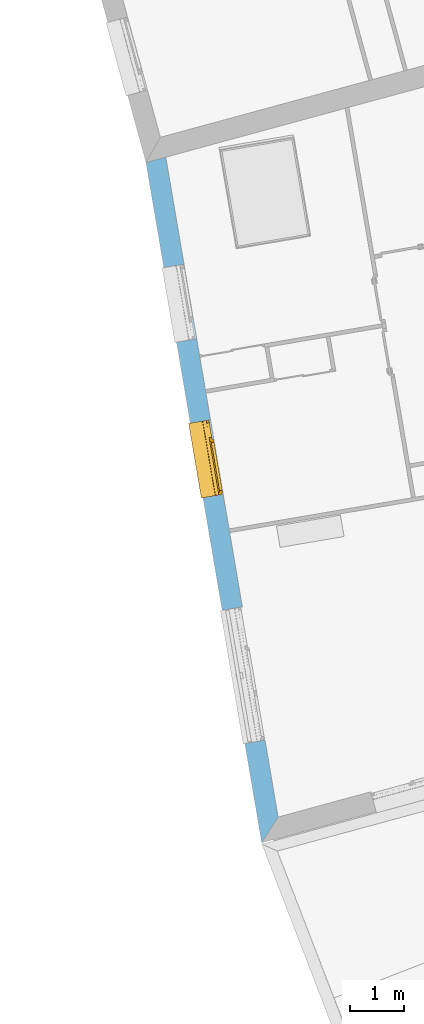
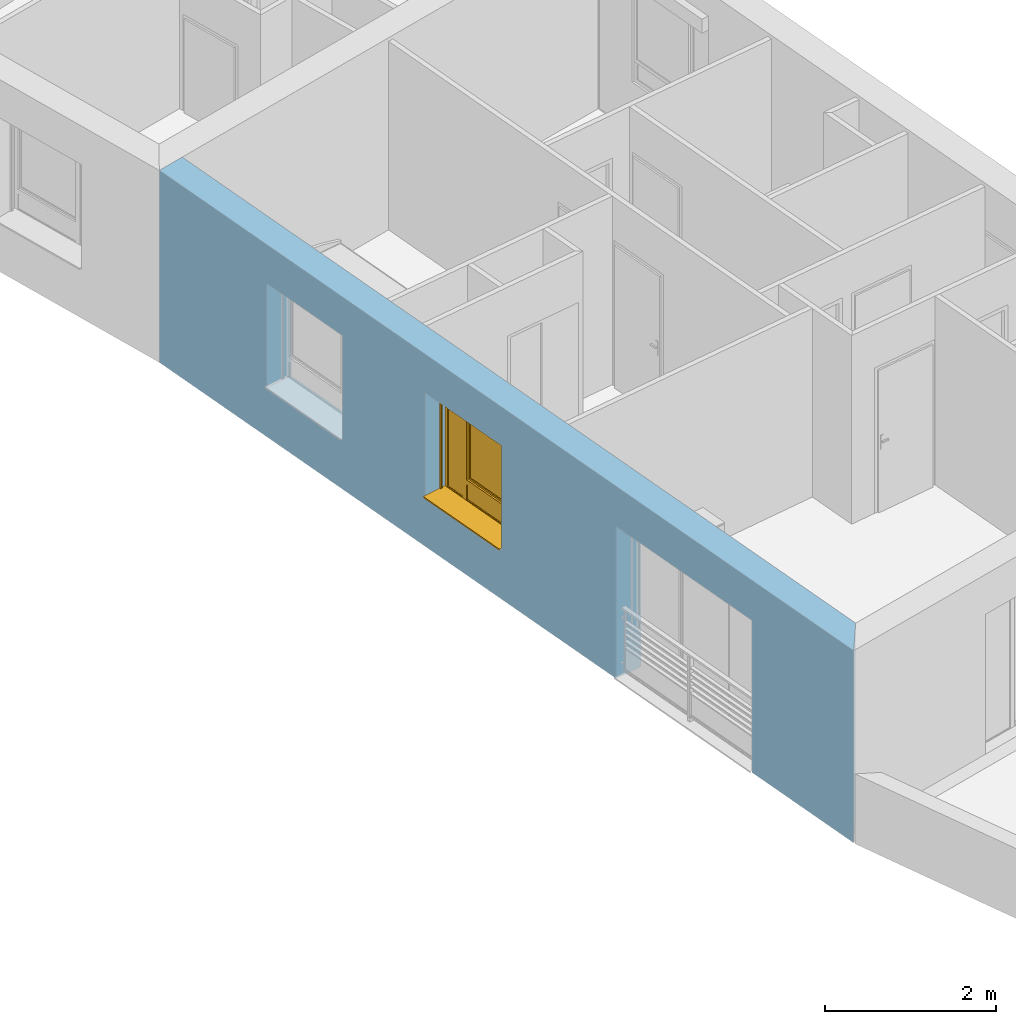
# One storey, part 73 of 121: 1 window, 3 openings, plus 1 element that does not belong to this part.
"""IFC2X3 building model written with IfcOpenShell, lengths in metres."""

from ifc_helpers import new_model, entity, si_unit, converted_unit, derived_unit, money_unit, direction, frame, origin_with_axes, place, context, subcontext, project, spatial, polyline, outline, extrude, open_shell, faceted_brep, surface_model, source, transform, mapped, material, layer, layer_set, layer_usage, type_object, element, fill, save


model = new_model("IFC2X3")

# Units and contexts
model_context = context("Model", 3, precision=1e-05, world=origin_with_axes(), true_north=direction((0.0, 1.0)))
body_context = subcontext(model_context, "Body", "Model", "MODEL_VIEW")
ifc_project = project(units=[si_unit("LENGTHUNIT", "METRE"), si_unit("AREAUNIT", "SQUARE_METRE"), si_unit("VOLUMEUNIT", "CUBIC_METRE"), converted_unit("PLANEANGLEUNIT", "DEGREE", entity("IfcPlaneAngleMeasure", 0.0174532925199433), si_unit("PLANEANGLEUNIT", "RADIAN"), dimensions=[0, 0, 0, 0, 0, 0, 0]), money_unit("CHF"), converted_unit("TIMEUNIT", "Year", entity("IfcTimeMeasure", 31557600.0), si_unit("TIMEUNIT", "SECOND"), dimensions=[0, 0, 1, 0, 0, 0, 0]), si_unit("MASSUNIT", "GRAM", prefix="KILO"), si_unit("THERMODYNAMICTEMPERATUREUNIT", "DEGREE_CELSIUS"), si_unit("LUMINOUSINTENSITYUNIT", "LUMEN"), si_unit("ENERGYUNIT", "JOULE", prefix="MEGA"), derived_unit("THERMALCONDUCTANCEUNIT", [(si_unit("POWERUNIT", "WATT"), 1), (si_unit("LENGTHUNIT", "METRE"), -1), (si_unit("THERMODYNAMICTEMPERATUREUNIT", "KELVIN"), -1)]), derived_unit("SPECIFICHEATCAPACITYUNIT", [(si_unit("ENERGYUNIT", "JOULE"), 1), (si_unit("MASSUNIT", "GRAM", prefix="KILO"), -1), (si_unit("THERMODYNAMICTEMPERATUREUNIT", "KELVIN"), -1)]), derived_unit("MASSDENSITYUNIT", [(si_unit("MASSUNIT", "GRAM", prefix="KILO"), 1), (si_unit("VOLUMEUNIT", "CUBIC_METRE"), -1)])], contexts=[model_context])

# Site, building, storey
site_placement = place(None, origin_with_axes())
site = spatial("IfcSite", under=ifc_project, at=site_placement, Name="Site", CompositionType="ELEMENT")
building_placement = place(site_placement, origin_with_axes())
building = spatial("IfcBuilding", under=site, at=building_placement, Name="Bâtiment", CompositionType="ELEMENT")
storey_placement = place(building_placement, frame((0.0, 0.0, 2.75), z_axis=(0.0, 0.0, 1.0), x_axis=(1.0, 0.0, 0.0)))
storey = spatial("IfcBuildingStorey", under=building, at=storey_placement, Name="Etage 1", CompositionType="ELEMENT", Elevation=2.75)

# Wall, openings, window
ifc_material_1 = material(Name="Parpaing 312445824")
ifc_layer_1 = layer(ifc_material_1, 0.22, ventilated="UNKNOWN")
ifc_material_2 = material(Name="Isolant styromousse 301821074")
ifc_layer_2 = layer(ifc_material_2, 0.16, ventilated="UNKNOWN")
ifc_layer_set = layer_set([ifc_layer_1, ifc_layer_2], Name="isol int 22+16 0836643197")
ifc_layer_usage = layer_usage(ifc_layer_set, "AXIS2", "POSITIVE", 0.0)
wall_type = type_object("IfcWallType", Name="isol int 22+16 0836643197 380", PredefinedType="NOTDEFINED")
wall_placement = place(storey_placement, frame((9579.832207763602, -1023.04273507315, 57.7), z_axis=(0.0, 0.0, 1.0), x_axis=(0.1677527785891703, -0.9858290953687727, 0.0)))
wall = element("IfcWallStandardCase", 1, at=wall_placement, inside=storey, type_object=wall_type, material=ifc_layer_usage, Name="Mur-113", context=body_context, shape_type="SweptSolid", body=[
    extrude(outline(polyline([(0.0, 0.0), (12.75935139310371, 0.0), (12.34045223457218, 0.3800000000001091), (-0.03709306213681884, 0.3800000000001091), (0.0, 0.0)])), origin_with_axes(), (0.0, 0.0, 1.0), 2.75),
])
opening_1_placement = place(wall_placement, frame((2.669998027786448, 0.0, 0.7000000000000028), z_axis=(0.0, 0.0, 1.0), x_axis=(1.0, 0.0, 0.0)))
element("IfcOpeningElement", 2, at=opening_1_placement, cuts=wall, Name="Fen-045", context=body_context, shape_type="Brep", body=[
    faceted_brep([(-0.700000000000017, 0.4799999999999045, 1.5), (0.6999999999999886, 0.4799999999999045, 1.5), (0.6999999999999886, 2.491085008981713, 1.5), (-0.700000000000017, 2.491085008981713, 1.5), (-0.700000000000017, 0.4799999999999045, 1.700000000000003), (0.6999999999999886, 0.4799999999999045, 1.700000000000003), (0.6999999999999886, 0.2999999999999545, 1.5), (0.6999999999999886, 0.2999999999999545, 0.0), (0.6999999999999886, 2.491085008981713, 0.0), (-0.700000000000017, 2.491085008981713, 0.0), (-0.700000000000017, 0.2999999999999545, 1.5), (-0.6999999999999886, 0.2999999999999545, 0.0), (-0.6999999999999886, 0.2199999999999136, 1.5), (-0.6999999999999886, 0.2199999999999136, 1.700000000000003), (0.6999999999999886, 0.2199999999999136, 1.700000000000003), (0.6999999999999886, 0.2199999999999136, 1.5), (0.6999999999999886, -2.111085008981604, 1.5), (0.6999999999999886, -2.111085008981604, 0.0), (-0.700000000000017, -2.111085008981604, 0.0), (-0.700000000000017, -2.111085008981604, 1.5)], [[[0, 1, 2, 3]], [[1, 0, 4, 5]], [[1, 6, 7, 8, 2]], [[2, 8, 9, 3]], [[10, 0, 3, 9, 11]], [[0, 10, 12, 13, 4]], [[14, 5, 4, 13]], [[6, 1, 5, 14, 15]], [[6, 15, 16, 17, 7]], [[7, 11, 9, 8]], [[12, 10, 11, 18, 19]], [[12, 15, 14, 13]], [[15, 12, 19, 16]], [[19, 18, 17, 16]], [[11, 7, 17, 18]]]),
])
opening_2_placement = place(wall_placement, frame((5.587342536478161, 0.0, 0.7000000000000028), z_axis=(0.0, 0.0, 1.0), x_axis=(1.0, 0.0, 0.0)))
opening_2 = element("IfcOpeningElement", 3, at=opening_2_placement, cuts=wall, Name="Fen-045", context=body_context, shape_type="Brep", body=[
    faceted_brep([(-0.700000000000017, 0.4799999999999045, 1.5), (0.6999999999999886, 0.4799999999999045, 1.5), (0.6999999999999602, 2.491085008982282, 1.5), (-0.7000000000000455, 2.491085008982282, 1.5), (-0.700000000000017, 0.4799999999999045, 1.700000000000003), (0.6999999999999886, 0.4799999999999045, 1.700000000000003), (0.6999999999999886, 0.2999999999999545, 1.5), (0.6999999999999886, 0.2999999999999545, 0.0), (0.6999999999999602, 2.491085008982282, 0.0), (-0.7000000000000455, 2.491085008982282, 0.0), (-0.700000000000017, 0.2999999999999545, 1.5), (-0.700000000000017, 0.2999999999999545, 0.0), (-0.6999999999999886, 0.2199999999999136, 1.5), (-0.6999999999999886, 0.2199999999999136, 1.700000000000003), (0.6999999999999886, 0.2199999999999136, 1.700000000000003), (0.6999999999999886, 0.2199999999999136, 1.5), (0.6999999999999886, -2.1110850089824, 1.5), (0.6999999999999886, -2.1110850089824, 0.0), (-0.700000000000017, -2.1110850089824, 0.0), (-0.700000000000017, -2.1110850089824, 1.5)], [[[0, 1, 2, 3]], [[1, 0, 4, 5]], [[1, 6, 7, 8, 2]], [[2, 8, 9, 3]], [[10, 0, 3, 9, 11]], [[0, 10, 12, 13, 4]], [[4, 13, 14, 5]], [[6, 1, 5, 14, 15]], [[6, 15, 16, 17, 7]], [[7, 11, 9, 8]], [[12, 10, 11, 18, 19]], [[12, 15, 14, 13]], [[15, 12, 19, 16]], [[19, 18, 17, 16]], [[11, 7, 17, 18]]]),
])
opening_3_placement = place(wall_placement, frame((9.646856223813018, 0.0, 0.0), z_axis=(0.0, 0.0, 1.0), x_axis=(1.0, 0.0, 0.0)))
element("IfcOpeningElement", 4, at=opening_3_placement, cuts=wall, Name="Fen-045", context=body_context, shape_type="Brep", body=[
    faceted_brep([(-1.25, 0.4800000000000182, 2.18), (1.25, 0.4800000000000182, 2.18), (1.25, 2.491085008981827, 2.18), (-1.25, 2.491085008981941, 2.18), (-1.25, 0.4800000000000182, 2.380000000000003), (1.25, 0.4800000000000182, 2.380000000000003), (1.25, 0.2999999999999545, 2.18), (1.25, 0.2999999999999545, 0.0), (1.25, 2.491085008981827, 0.0), (-1.25, 2.491085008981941, 0.0), (-1.25, 0.3000000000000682, 2.18), (-1.25, 0.3000000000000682, 0.0), (-1.25, 0.2199999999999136, 2.18), (-1.25, 0.2199999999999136, 2.380000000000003), (1.25, 0.220000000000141, 2.380000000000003), (1.25, 0.220000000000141, 2.18), (1.25, -2.111085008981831, 2.18), (1.25, -2.111085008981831, 0.0), (-1.25, -2.111085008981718, 0.0), (-1.25, -2.111085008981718, 2.18)], [[[0, 1, 2, 3]], [[1, 0, 4, 5]], [[1, 6, 7, 8, 2]], [[2, 8, 9, 3]], [[10, 0, 3, 9, 11]], [[0, 10, 12, 13, 4]], [[4, 13, 14, 5]], [[6, 1, 5, 14, 15]], [[6, 15, 16, 17, 7]], [[7, 11, 9, 8]], [[12, 10, 11, 18, 19]], [[12, 15, 14, 13]], [[15, 12, 19, 16]], [[19, 18, 17, 16]], [[11, 7, 17, 18]]]),
])
window_style = type_object("IfcWindowStyle", Name="Fenêtre variable 27", ConstructionType="NOTDEFINED", OperationType="TRIPLE_PANEL_LEFT", ParameterTakesPrecedence=False, Sizeable=False)
shared_shape = source(origin_with_axes(), body_context, "Body", "SurfaceModel", [
    surface_model("IfcShellBasedSurfaceModel", [(0.7, -0.05100000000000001, 0.05), (-0.7, -0.05100000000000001, 0.05000000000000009), (-0.7, -0.05100000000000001, 0.04000000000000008), (0.7, -0.05100000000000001, 0.04), (-0.7, -0.3799999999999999, 0.02900000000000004), (0.7, -0.3799999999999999, 0.02899999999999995), (-0.7, -0.3799999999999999, 0.00900000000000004), (0.7, -0.3799999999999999, 0.008999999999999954), (-0.7, -0.3699999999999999, 0.01900000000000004), (0.7, -0.3699999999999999, 0.01899999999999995)], [open_shell([[[0, 1, 2, 3]], [[3, 2, 4, 5]], [[5, 4, 6, 7]], [[7, 6, 8, 9]]])]),
    faceted_brep([(0.7, -0.13, 1.7), (0.7, 0.13, 1.7), (0.697, 0.13, 1.7), (0.697, -0.13, 1.7), (0.7, -0.13, 1.5), (0.7, 0.13, 1.5), (0.697, 0.13, 1.5), (0.697, -0.13, 1.5)], [[[0, 1, 2, 3]], [[0, 4, 5, 1]], [[1, 5, 6, 2]], [[3, 2, 6, 7]], [[4, 0, 3, 7]], [[5, 4, 7, 6]]]),
    faceted_brep([(-0.6970000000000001, -0.1299999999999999, 1.7), (-0.6970000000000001, 0.1300000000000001, 1.7), (-0.7000000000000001, 0.1300000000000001, 1.7), (-0.7000000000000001, -0.1299999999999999, 1.7), (-0.6970000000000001, -0.1299999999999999, 1.5), (-0.6970000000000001, 0.1300000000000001, 1.5), (-0.7000000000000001, 0.1300000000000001, 1.5), (-0.7000000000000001, -0.1299999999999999, 1.5)], [[[0, 1, 2, 3]], [[0, 4, 5, 1]], [[1, 5, 6, 2]], [[3, 2, 6, 7]], [[4, 0, 3, 7]], [[5, 4, 7, 6]]]),
    faceted_brep([(0.697, -0.13, 1.5), (0.697, -0.13, 1.7), (-0.697, -0.1299999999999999, 1.7), (-0.697, -0.1299999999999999, 1.5), (0.697, -0.127, 1.5), (0.697, -0.127, 1.697), (0.697, 0.127, 1.697), (0.697, 0.127, 1.503), (0.697, -0.108, 1.503), (0.697, -0.108, 1.5), (0.697, 0.13, 1.5), (0.697, 0.13, 1.7), (-0.697, 0.1300000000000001, 1.7), (-0.697, 0.1300000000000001, 1.5), (-0.697, -0.1079999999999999, 1.5), (-0.697, -0.1079999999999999, 1.503), (-0.697, 0.1270000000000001, 1.503), (-0.697, 0.1270000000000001, 1.697), (-0.697, -0.1269999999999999, 1.697), (-0.697, -0.1269999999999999, 1.5)], [[[0, 1, 2, 3]], [[0, 4, 5, 6, 7, 8, 9, 10, 11, 1]], [[1, 11, 12, 2]], [[3, 2, 12, 13, 14, 15, 16, 17, 18, 19]], [[4, 0, 3, 19]], [[5, 4, 19, 18]], [[6, 5, 18, 17]], [[7, 6, 17, 16]], [[8, 7, 16, 15]], [[9, 8, 15, 14]], [[10, 9, 14, 13]], [[11, 10, 13, 12]]]),
    faceted_brep([(0.694, -0.08075423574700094, 1.585760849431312), (0.694, -0.07705479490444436, 1.571954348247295), (0.694, -0.07101408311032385, 1.559), (0.694, -0.06281564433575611, 1.547291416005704), (0.694, -0.05270858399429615, 1.537184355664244), (0.694, -0.04099999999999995, 1.528985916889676), (0.694, -0.02804565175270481, 1.522945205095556), (0.694, -0.01423915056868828, 1.519245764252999), (0.694, 0.0, 1.518), (0.694, 0.01423915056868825, 1.519245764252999), (0.694, 0.02804565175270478, 1.522945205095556), (0.694, 0.04099999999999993, 1.528985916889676), (0.694, 0.05270858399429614, 1.537184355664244), (0.694, 0.06281564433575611, 1.547291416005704), (0.694, 0.07101408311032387, 1.559), (0.694, 0.07705479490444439, 1.571954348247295), (0.694, 0.08075423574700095, 1.585760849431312), (0.694, 0.0819999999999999, 1.6), (0.694, 0.08075423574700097, 1.614239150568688), (0.694, 0.0770547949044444, 1.628045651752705), (0.694, 0.07101408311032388, 1.641), (0.694, 0.06281564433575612, 1.652708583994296), (0.694, 0.05270858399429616, 1.662815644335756), (0.694, 0.04099999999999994, 1.671014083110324), (0.694, 0.02804565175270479, 1.677054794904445), (0.694, 0.01423915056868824, 1.680754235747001), (0.694, 0.0, 1.682), (0.694, -0.01423915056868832, 1.680754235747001), (0.694, -0.02804565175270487, 1.677054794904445), (0.694, -0.04100000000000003, 1.671014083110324), (0.694, -0.05270858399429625, 1.662815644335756), (0.694, -0.06281564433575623, 1.652708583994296), (0.694, -0.07101408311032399, 1.641), (0.694, -0.07705479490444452, 1.628045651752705), (0.694, -0.0807542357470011, 1.614239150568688), (0.694, -0.08200000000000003, 1.6), (-0.694, -0.08075423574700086, 1.585760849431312), (-0.694, -0.07705479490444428, 1.571954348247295), (-0.694, -0.07101408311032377, 1.559), (-0.694, -0.06281564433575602, 1.547291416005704), (-0.694, -0.05270858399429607, 1.537184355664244), (-0.694, -0.04099999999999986, 1.528985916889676), (-0.694, -0.02804565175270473, 1.522945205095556), (-0.694, -0.0142391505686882, 1.519245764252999), (-0.694, 0.0, 1.518), (-0.694, 0.01423915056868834, 1.519245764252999), (-0.694, 0.02804565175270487, 1.522945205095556), (-0.694, 0.04100000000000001, 1.528985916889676), (-0.694, 0.05270858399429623, 1.537184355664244), (-0.694, 0.06281564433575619, 1.547291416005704), (-0.694, 0.07101408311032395, 1.559), (-0.694, 0.07705479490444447, 1.571954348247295), (-0.694, 0.08075423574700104, 1.585760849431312), (-0.694, 0.08199999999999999, 1.6), (-0.694, 0.08075423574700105, 1.614239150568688), (-0.694, 0.07705479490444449, 1.628045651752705), (-0.694, 0.07101408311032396, 1.641), (-0.694, 0.0628156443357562, 1.652708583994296), (-0.694, 0.05270858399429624, 1.662815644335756), (-0.694, 0.04100000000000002, 1.671014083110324), (-0.694, 0.02804565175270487, 1.677054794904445), (-0.694, 0.01423915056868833, 1.680754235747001), (-0.694, 0.0, 1.682), (-0.694, -0.01423915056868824, 1.680754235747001), (-0.694, -0.02804565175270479, 1.677054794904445), (-0.694, -0.04099999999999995, 1.671014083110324), (-0.694, -0.05270858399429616, 1.662815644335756), (-0.694, -0.06281564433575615, 1.652708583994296), (-0.694, -0.07101408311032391, 1.641), (-0.694, -0.07705479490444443, 1.628045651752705), (-0.694, -0.08075423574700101, 1.614239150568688), (-0.694, -0.08199999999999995, 1.6)], [[[0, 1, 2, 3, 4, 5, 6, 7, 8, 9, 10, 11, 12, 13, 14, 15, 16, 17, 18, 19, 20, 21, 22, 23, 24, 25, 26, 27, 28, 29, 30, 31, 32, 33, 34, 35]], [[1, 0, 36, 37]], [[2, 1, 37, 38]], [[3, 2, 38, 39]], [[4, 3, 39, 40]], [[5, 4, 40, 41]], [[6, 5, 41, 42]], [[7, 6, 42, 43]], [[8, 7, 43, 44]], [[9, 8, 44, 45]], [[10, 9, 45, 46]], [[11, 10, 46, 47]], [[12, 11, 47, 48]], [[13, 12, 48, 49]], [[14, 13, 49, 50]], [[15, 14, 50, 51]], [[16, 15, 51, 52]], [[17, 16, 52, 53]], [[18, 17, 53, 54]], [[19, 18, 54, 55]], [[20, 19, 55, 56]], [[21, 20, 56, 57]], [[22, 21, 57, 58]], [[23, 22, 58, 59]], [[24, 23, 59, 60]], [[25, 24, 60, 61]], [[26, 25, 61, 62]], [[27, 26, 62, 63]], [[28, 27, 63, 64]], [[29, 28, 64, 65]], [[30, 29, 65, 66]], [[31, 30, 66, 67]], [[32, 31, 67, 68]], [[33, 32, 68, 69]], [[34, 33, 69, 70]], [[35, 34, 70, 71]], [[0, 35, 71, 36]], [[36, 71, 70, 69, 68, 67, 66, 65, 64, 63, 62, 61, 60, 59, 58, 57, 56, 55, 54, 53, 52, 51, 50, 49, 48, 47, 46, 45, 44, 43, 42, 41, 40, 39, 38, 37]]]),
    faceted_brep([(-0.7, -0.105, 0.03), (-0.7, -0.13, 0.03), (-0.7, -0.1299999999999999, 1.5), (-0.7, -0.1049999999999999, 1.5), (-0.6749999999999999, -0.105, 0.03), (-0.6749999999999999, -0.108, 0.03), (-0.697, -0.108, 0.03), (-0.697, -0.127, 0.03), (-0.6749999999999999, -0.127, 0.03), (-0.6749999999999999, -0.13, 0.03), (-0.6749999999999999, -0.1299999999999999, 1.5), (-0.6749999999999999, -0.1269999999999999, 1.5), (-0.697, -0.1269999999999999, 1.5), (-0.697, -0.1079999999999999, 1.5), (-0.6749999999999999, -0.1079999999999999, 1.5), (-0.6749999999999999, -0.1049999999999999, 1.5)], [[[0, 1, 2, 3]], [[0, 4, 5, 6, 7, 8, 9, 1]], [[1, 9, 10, 2]], [[3, 2, 10, 11, 12, 13, 14, 15]], [[4, 0, 3, 15]], [[5, 4, 15, 14]], [[6, 5, 14, 13]], [[7, 6, 13, 12]], [[8, 7, 12, 11]], [[9, 8, 11, 10]]]),
    faceted_brep([(0.7, -0.105, 0.03), (0.7, -0.1049999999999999, 1.5), (0.7, -0.1299999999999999, 1.5), (0.7, -0.13, 0.03), (0.6749999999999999, -0.105, 0.03), (0.6749999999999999, -0.1049999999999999, 1.5), (0.6749999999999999, -0.1079999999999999, 1.5), (0.697, -0.1079999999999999, 1.5), (0.697, -0.1269999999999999, 1.5), (0.6749999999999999, -0.1269999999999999, 1.5), (0.6749999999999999, -0.1299999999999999, 1.5), (0.6749999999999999, -0.13, 0.03), (0.6749999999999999, -0.127, 0.03), (0.697, -0.127, 0.03), (0.697, -0.108, 0.03), (0.6749999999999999, -0.108, 0.03)], [[[0, 1, 2, 3]], [[4, 5, 1, 0]], [[1, 5, 6, 7, 8, 9, 10, 2]], [[3, 2, 10, 11]], [[0, 3, 11, 12, 13, 14, 15, 4]], [[15, 6, 5, 4]], [[14, 7, 6, 15]], [[13, 8, 7, 14]], [[12, 9, 8, 13]], [[11, 10, 9, 12]]]),
    surface_model("IfcShellBasedSurfaceModel", [(0.697, -0.115, 1.6), (-0.697, -0.1149999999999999, 1.6), (-0.697, -0.12, 1.6), (0.697, -0.12, 1.6), (0.697, -0.115, 1.6), (0.697, -0.12, 1.6), (-0.697, -0.1199999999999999, 1.6), (-0.697, -0.1149999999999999, 1.6)], [open_shell([[[0, 1, 2, 3]], [[4, 5, 6, 7]]])]),
    faceted_brep([(0.697, -0.115, 1.6), (0.697, -0.1166666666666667, 1.583333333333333), (-0.697, -0.1166666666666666, 1.583333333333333), (-0.697, -0.1149999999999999, 1.6), (0.697, -0.12, 1.6), (0.697, -0.1216666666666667, 1.583333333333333), (0.697, -0.1216666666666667, 1.566666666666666), (0.697, -0.12, 1.55), (0.697, -0.115, 1.55), (0.697, -0.1166666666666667, 1.566666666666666), (-0.697, -0.1166666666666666, 1.566666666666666), (-0.697, -0.1149999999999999, 1.55), (-0.697, -0.1199999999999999, 1.55), (-0.697, -0.1216666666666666, 1.566666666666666), (-0.697, -0.1216666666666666, 1.583333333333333), (-0.697, -0.1199999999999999, 1.6)], [[[0, 1, 2, 3]], [[0, 4, 5, 6, 7, 8, 9, 1]], [[1, 9, 10, 2]], [[3, 2, 10, 11, 12, 13, 14, 15]], [[4, 0, 3, 15]], [[5, 4, 15, 14]], [[6, 5, 14, 13]], [[7, 6, 13, 12]], [[8, 7, 12, 11]], [[9, 8, 11, 10]]]),
    faceted_brep([(0.697, -0.115, 1.55), (0.697, -0.1166666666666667, 1.533333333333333), (-0.697, -0.1166666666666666, 1.533333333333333), (-0.697, -0.1149999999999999, 1.55), (0.697, -0.12, 1.55), (0.697, -0.1216666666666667, 1.533333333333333), (0.697, -0.1216666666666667, 1.516666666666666), (0.697, -0.12, 1.5), (0.697, -0.115, 1.5), (0.697, -0.1166666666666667, 1.516666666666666), (-0.697, -0.1166666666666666, 1.516666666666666), (-0.697, -0.1149999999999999, 1.5), (-0.697, -0.1199999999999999, 1.5), (-0.697, -0.1216666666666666, 1.516666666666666), (-0.697, -0.1216666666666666, 1.533333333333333), (-0.697, -0.1199999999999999, 1.55)], [[[0, 1, 2, 3]], [[0, 4, 5, 6, 7, 8, 9, 1]], [[1, 9, 10, 2]], [[3, 2, 10, 11, 12, 13, 14, 15]], [[4, 0, 3, 15]], [[5, 4, 15, 14]], [[6, 5, 14, 13]], [[7, 6, 13, 12]], [[8, 7, 12, 11]], [[9, 8, 11, 10]]]),
    faceted_brep([(0.6749999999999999, 0.0, 1.45), (0.6749999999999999, -0.02500000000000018, 1.45), (0.6499999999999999, -0.02500000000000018, 1.45), (0.6499999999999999, -0.05000000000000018, 1.45), (0.7, -0.05000000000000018, 1.45), (0.7, 0.0, 1.45), (0.6749999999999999, 0.0, 0.3099999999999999), (0.6749999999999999, -0.02500000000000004, 0.3099999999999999), (0.6499999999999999, -0.02500000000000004, 0.335), (0.6499999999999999, -0.02500000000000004, 0.3099999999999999), (0.6499999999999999, -0.05000000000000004, 0.335), (0.6499999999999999, -0.05000000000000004, 0.265), (0.6499999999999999, -0.05000000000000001, 0.05000000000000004), (0.7, -0.05000000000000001, 0.05000000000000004), (0.7, 0.0, 0.05000000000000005), (0.6499999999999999, 0.0, 0.05000000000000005), (0.6499999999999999, 0.0, 0.265), (0.6499999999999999, 0.0, 0.3099999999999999)], [[[0, 1, 2, 3, 4, 5]], [[1, 0, 6, 7]], [[8, 2, 1, 7, 9]], [[2, 8, 10, 3]], [[10, 11, 12, 13, 4, 3]], [[5, 4, 13, 14]], [[6, 0, 5, 14, 15, 16, 17]], [[6, 17, 9, 7]], [[9, 17, 16, 11, 10, 8]], [[15, 12, 11, 16]], [[14, 13, 12, 15]]]),
    faceted_brep([(-0.3068894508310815, -0.02500000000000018, 1.45), (-0.3318894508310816, -0.02500000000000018, 1.45), (-0.3318894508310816, 0.0, 1.45), (-0.3768894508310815, 0.0, 1.45), (-0.3768894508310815, -0.05000000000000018, 1.45), (-0.3068894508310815, -0.05000000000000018, 1.45), (-0.3068894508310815, -0.02500000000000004, 0.335), (-0.3068894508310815, -0.02500000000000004, 0.3099999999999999), (-0.3318894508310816, -0.02500000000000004, 0.3099999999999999), (-0.3318894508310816, 0.0, 0.3099999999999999), (-0.3068894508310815, 0.0, 0.3099999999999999), (-0.3068894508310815, 0.0, 0.265), (-0.3068894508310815, 0.0, 0.05000000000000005), (-0.3768894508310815, 0.0, 0.05000000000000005), (-0.3768894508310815, -0.05000000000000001, 0.05000000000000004), (-0.3068894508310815, -0.05000000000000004, 0.265), (-0.3068894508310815, -0.05000000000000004, 0.335), (-0.3068894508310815, -0.05000000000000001, 0.05000000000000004)], [[[0, 1, 2, 3, 4, 5]], [[1, 0, 6, 7, 8]], [[9, 2, 1, 8]], [[9, 10, 11, 12, 13, 3, 2]], [[13, 14, 4, 3]], [[15, 16, 5, 4, 14, 17]], [[6, 0, 5, 16]], [[7, 6, 16, 15, 11, 10]], [[10, 9, 8, 7]], [[11, 15, 17, 12]], [[12, 17, 14, 13]]]),
    faceted_brep([(0.6499999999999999, -0.02500000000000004, 0.335), (-0.3068894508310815, -0.02500000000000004, 0.335), (-0.3068894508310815, -0.05000000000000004, 0.335), (0.6499999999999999, -0.05000000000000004, 0.335), (-0.3068894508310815, -0.02500000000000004, 0.3099999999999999), (0.6499999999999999, -0.02500000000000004, 0.3099999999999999), (-0.3068894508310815, 0.0, 0.3099999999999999), (-0.3068894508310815, 0.0, 0.265), (-0.3068894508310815, -0.05000000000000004, 0.265), (0.6499999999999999, -0.05000000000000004, 0.265), (0.6499999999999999, 0.0, 0.265), (0.6499999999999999, 0.0, 0.3099999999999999)], [[[0, 1, 2, 3]], [[4, 1, 0, 5]], [[4, 6, 7, 8, 2, 1]], [[2, 8, 9, 3]], [[5, 0, 3, 9, 10, 11]], [[11, 6, 4, 5]], [[6, 11, 10, 7]], [[10, 9, 8, 7]]]),
    faceted_brep([(0.6749999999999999, 0.0, 1.45), (0.6749999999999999, 0.0, 1.475), (-0.3318894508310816, 0.0, 1.475), (-0.3318894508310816, 0.0, 1.45), (-0.3768894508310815, 0.0, 1.45), (-0.6499999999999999, 0.0, 1.45), (-0.7, 0.0, 1.45), (-0.7, 0.0, 1.5), (0.7, 0.0, 1.5), (0.7, 0.0, 1.45), (0.6749999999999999, -0.02500000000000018, 1.45), (0.6749999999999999, -0.02500000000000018, 1.475), (-0.3318894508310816, -0.02500000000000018, 1.475), (-0.3318894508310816, -0.02500000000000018, 1.45), (-0.3068894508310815, -0.02500000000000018, 1.45), (-0.3068894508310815, -0.05000000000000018, 1.45), (-0.3768894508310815, -0.05000000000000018, 1.45), (-0.6499999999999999, -0.05000000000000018, 1.45), (-0.7, -0.05000000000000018, 1.45), (-0.7, -0.05000000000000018, 1.5), (0.7, -0.05000000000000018, 1.5), (0.7, -0.05000000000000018, 1.45), (0.6499999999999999, -0.05000000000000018, 1.45), (0.6499999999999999, -0.02500000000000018, 1.45)], [[[0, 1, 2, 3, 4, 5, 6, 7, 8, 9]], [[1, 0, 10, 11]], [[2, 1, 11, 12]], [[3, 2, 12, 13]], [[13, 14, 15, 16, 4, 3]], [[4, 16, 17, 5]], [[5, 17, 18, 6]], [[6, 18, 19, 7]], [[7, 19, 20, 8]], [[8, 20, 21, 9]], [[10, 0, 9, 21, 22, 23]], [[14, 13, 12, 11, 10, 23]], [[14, 23, 22, 15]], [[16, 15, 22, 21, 20, 19, 18, 17]]]),
    faceted_brep([(-0.6499999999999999, -0.05000000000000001, 0.05), (-0.7, -0.05000000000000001, 0.05), (-0.7, 0.0, 0.05000000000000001), (-0.6499999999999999, 0.0, 0.05000000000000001), (-0.6499999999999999, -0.05000000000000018, 1.45), (-0.7, -0.05000000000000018, 1.45), (-0.7, 0.0, 1.45), (-0.6499999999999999, 0.0, 1.45)], [[[0, 1, 2, 3]], [[0, 4, 5, 1]], [[1, 5, 6, 2]], [[3, 2, 6, 7]], [[4, 0, 3, 7]], [[5, 4, 7, 6]]]),
    faceted_brep([(0.6499999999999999, -0.05000000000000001, 0.05), (0.7, -0.05000000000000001, 0.05), (0.7, 0.0, 0.05000000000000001), (0.6499999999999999, 0.0, 0.05000000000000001), (-0.3068894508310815, -0.05000000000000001, 0.05), (-0.3768894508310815, -0.05000000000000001, 0.05), (-0.6499999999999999, -0.05000000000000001, 0.05), (-0.7, -0.05000000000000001, 0.05), (-0.7, -0.05, 0.0), (0.7, -0.05, 0.0), (0.7, 0.0, 0.0), (-0.7, 0.0, 0.0), (-0.7, 0.0, 0.05000000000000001), (-0.6499999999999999, 0.0, 0.05000000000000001), (-0.3768894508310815, 0.0, 0.05000000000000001), (-0.3068894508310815, 0.0, 0.05000000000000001)], [[[0, 1, 2, 3]], [[0, 4, 5, 6, 7, 8, 9, 1]], [[1, 9, 10, 2]], [[3, 2, 10, 11, 12, 13, 14, 15]], [[4, 0, 3, 15]], [[5, 4, 15, 14]], [[6, 5, 14, 13]], [[7, 6, 13, 12]], [[8, 7, 12, 11]], [[9, 8, 11, 10]]]),
    faceted_brep([(0.625, -0.02500000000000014, 1.425), (0.6749999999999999, -0.02500000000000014, 1.425), (0.6749999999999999, 0.02499999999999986, 1.425), (0.625, 0.02499999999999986, 1.425), (0.625, -0.02500000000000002, 0.3599999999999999), (0.6749999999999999, -0.02500000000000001, 0.3599999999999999), (0.6749999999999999, 0.02499999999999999, 0.3599999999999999), (0.625, 0.02499999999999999, 0.3599999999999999)], [[[0, 1, 2, 3]], [[0, 4, 5, 1]], [[1, 5, 6, 2]], [[3, 2, 6, 7]], [[4, 0, 3, 7]], [[5, 4, 7, 6]]]),
    faceted_brep([(-0.2818894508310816, -0.02500000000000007, 0.3599999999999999), (-0.3318894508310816, -0.02500000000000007, 0.3599999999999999), (-0.3318894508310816, 0.02499999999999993, 0.3599999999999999), (-0.2818894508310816, 0.02499999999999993, 0.3599999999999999), (-0.2818894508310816, -0.0250000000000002, 1.425), (-0.3318894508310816, -0.0250000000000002, 1.425), (-0.3318894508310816, 0.0249999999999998, 1.425), (-0.2818894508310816, 0.0249999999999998, 1.425)], [[[0, 1, 2, 3]], [[0, 4, 5, 1]], [[1, 5, 6, 2]], [[3, 2, 6, 7]], [[4, 0, 3, 7]], [[5, 4, 7, 6]]]),
    faceted_brep([(-0.3318894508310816, -0.02500000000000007, 0.3099999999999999), (-0.3318894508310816, -0.02500000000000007, 0.3599999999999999), (-0.3318894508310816, 0.02499999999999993, 0.3599999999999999), (-0.3318894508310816, 0.02499999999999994, 0.3099999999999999), (0.6749999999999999, -0.025, 0.3099999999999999), (0.6749999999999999, -0.02500000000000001, 0.3599999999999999), (0.625, -0.02500000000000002, 0.3599999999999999), (-0.2818894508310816, -0.02500000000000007, 0.3599999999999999), (-0.2818894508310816, 0.02499999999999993, 0.3599999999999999), (0.625, 0.02499999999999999, 0.3599999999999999), (0.6749999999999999, 0.02499999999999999, 0.3599999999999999), (0.6749999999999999, 0.02499999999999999, 0.3099999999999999)], [[[0, 1, 2, 3]], [[0, 4, 5, 6, 7, 1]], [[1, 7, 8, 2]], [[3, 2, 8, 9, 10, 11]], [[4, 0, 3, 11]], [[5, 4, 11, 10]], [[6, 5, 10, 9]], [[7, 6, 9, 8]]]),
    faceted_brep([(0.6749999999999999, -0.02500000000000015, 1.475), (0.6749999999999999, -0.02500000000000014, 1.425), (0.6749999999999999, 0.02499999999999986, 1.425), (0.6749999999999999, 0.02499999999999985, 1.475), (-0.3318894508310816, -0.02500000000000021, 1.475), (-0.3318894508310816, -0.0250000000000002, 1.425), (-0.2818894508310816, -0.0250000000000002, 1.425), (0.625, -0.02500000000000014, 1.425), (0.625, 0.02499999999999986, 1.425), (-0.2818894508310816, 0.0249999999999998, 1.425), (-0.3318894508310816, 0.0249999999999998, 1.425), (-0.3318894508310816, 0.02499999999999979, 1.475)], [[[0, 1, 2, 3]], [[0, 4, 5, 6, 7, 1]], [[1, 7, 8, 2]], [[3, 2, 8, 9, 10, 11]], [[4, 0, 3, 11]], [[5, 4, 11, 10]], [[6, 5, 10, 9]], [[7, 6, 9, 8]]]),
    surface_model("IfcShellBasedSurfaceModel", [(0.625, -0.01000000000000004, 0.3599999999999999), (0.625, -0.01000000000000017, 1.425), (-0.2818894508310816, -0.01000000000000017, 1.425), (-0.2818894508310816, -0.01000000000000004, 0.3599999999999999)], [open_shell([[[0, 1, 2, 3]]])]),
    surface_model("IfcShellBasedSurfaceModel", [(0.625, 0.009999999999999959, 0.3599999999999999), (-0.2818894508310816, 0.009999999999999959, 0.3599999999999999), (-0.2818894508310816, 0.00999999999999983, 1.425), (0.625, 0.00999999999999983, 1.425)], [open_shell([[[0, 1, 2, 3]]])]),
    surface_model("IfcShellBasedSurfaceModel", [(-0.3768894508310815, -0.035, 0.05), (-0.3768894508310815, -0.03500000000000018, 1.45), (-0.65, -0.03500000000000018, 1.45), (-0.65, -0.035, 0.05)], [open_shell([[[0, 1, 2, 3]]])]),
    surface_model("IfcShellBasedSurfaceModel", [(-0.3768894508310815, -0.015, 0.05), (-0.65, -0.015, 0.05), (-0.65, -0.01500000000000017, 1.45), (-0.3768894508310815, -0.01500000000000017, 1.45)], [open_shell([[[0, 1, 2, 3]]])]),
    surface_model("IfcShellBasedSurfaceModel", [(0.6499999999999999, -0.035, 0.05), (0.6499999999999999, -0.03500000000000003, 0.265), (-0.3068894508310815, -0.03500000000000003, 0.265), (-0.3068894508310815, -0.035, 0.05)], [open_shell([[[0, 1, 2, 3]]])]),
    surface_model("IfcShellBasedSurfaceModel", [(0.6499999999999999, -0.015, 0.05), (-0.3068894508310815, -0.015, 0.05), (-0.3068894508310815, -0.01500000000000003, 0.265), (0.6499999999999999, -0.01500000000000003, 0.265)], [open_shell([[[0, 1, 2, 3]]])]),
])
window_placement = place(opening_2_placement, frame((-0.6999999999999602, 0.0, 0.0), z_axis=(0.0, 0.0, 1.0), x_axis=(1.0, 0.0, 0.0)))
window = element("IfcWindow", 5, at=window_placement, inside=storey, type_object=window_style, Name="Fen-045", OverallHeight=1.5, OverallWidth=1.4, context=body_context, shape_type="MappedRepresentation", body=[
    mapped(shared_shape, transform((0.6999999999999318, 0.3500000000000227, 0.0))),
])
fill(opening_2, window)

save(model, "model.ifc")
